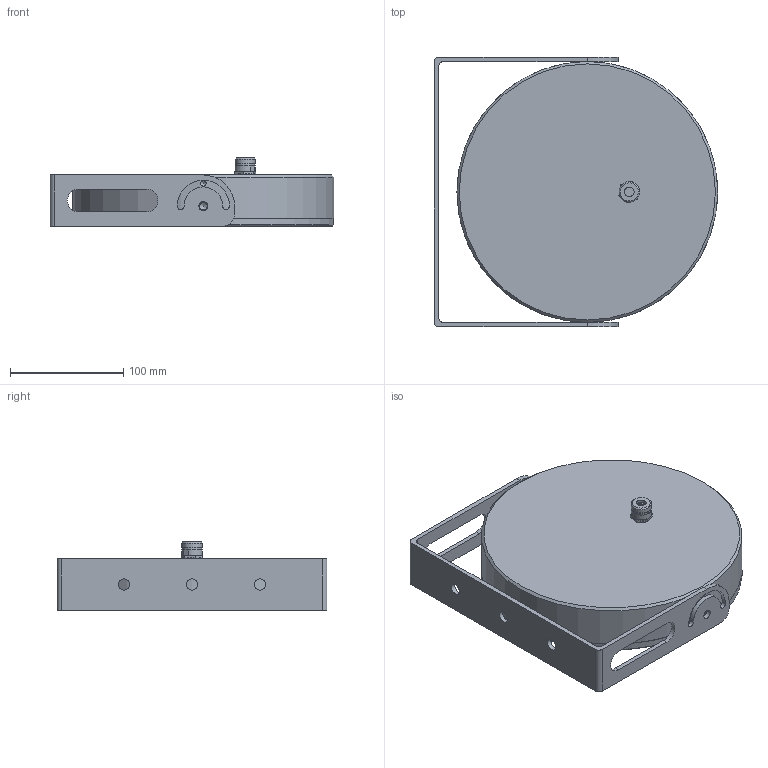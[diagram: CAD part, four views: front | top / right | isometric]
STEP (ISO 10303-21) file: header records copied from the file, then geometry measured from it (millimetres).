
FILE_DESCRIPTION(/* description */ ('Alibre Inc.'),/* implementation_level */ '2;1');
FILE_NAME(/* name */ 'export-82A4B4E9-34FD-4A95-B215-C9B368F7B142',/* time_stamp */ '2025-04-08T19:02:04+02:00',/* author */ (''),/* organization */ (''),/* preprocessor_version */ 'ST-DEVELOPER v17',/* originating_system */ 'Alibre',/* authorisation */ '');
FILE_SCHEMA (('CONFIG_CONTROL_DESIGN'));
Length unit declared in the file: millimetre
Bounding box: 250 x 238 x 60 mm (x, y, z)
Volume: 1513065.4 mm3; surface area: 380413.1 mm2
Topology: 39 solids, 39 shells, 2492 faces, 6355 edges, 4222 vertices
Faces by surface type: plane 1415, bspline 824, cylinder 188, cone 65
Full cylindrical faces by diameter (mm): 2.5 x8, 3 x8, 4.134 x10, 4.917 x2, 5 x24, 5.3 x10, 6.647 x2, 8 x2, 8.5 x1, 8.7 x1, 10 x3, 10.9 x1, 12.4 x1, 14 x2, 16 x1, 16.5 x1, 17 x25, 18 x1, 19 x24, 30 x1, 45 x8, 184.5 x1, 186 x1, 190 x1, 199 x1, 205 x2, 230 x2
Entity records: 14518 total; most frequent: CARTESIAN_POINT 3393, ORIENTED_EDGE 2016, DIRECTION 1519, EDGE_CURVE 1008, VERTEX_POINT 746, FACE_BOUND 690, EDGE_LOOP 668, AXIS2_PLACEMENT_3D 575
